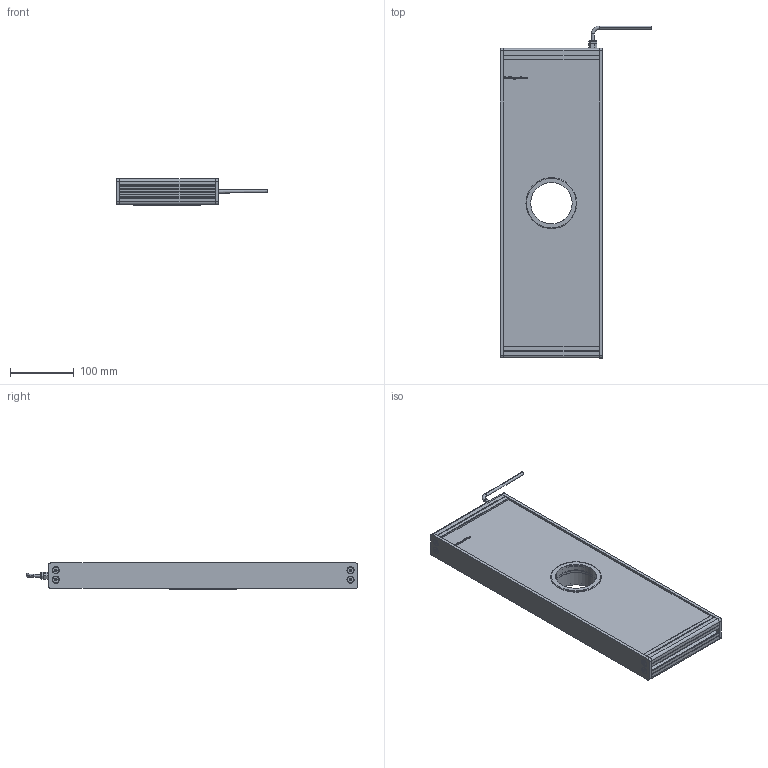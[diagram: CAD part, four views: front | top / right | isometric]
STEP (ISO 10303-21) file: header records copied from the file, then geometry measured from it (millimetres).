
FILE_DESCRIPTION (( 'STEP AP214' ), '1' );
FILE_NAME ('EFFI-FD-150T-450-M12 Ø65.STEP', '2021-07-02T12:16:33', ( '' ), ( '' ), 'SwSTEP 2.0', 'SolidWorks 2021', '' );
FILE_SCHEMA (( 'AUTOMOTIVE_DESIGN' ));
Length unit declared in the file: millimetre
Products named in the file (11): bord fin modif_lg 436.5 mm; 000590; profile modif_lg 99.5 mm; 003776; EFFI-FD-150T-450-M12 Ø65; Assemblage Ø65; 004409; 004408; Pièce2^EFFI-FD-XXXT-YYY-M12 Ø65; cordon_Avec cable
Assembly tree (20 placements, depth 3):
  EFFI-FD-150T-450-M12 Ø65
    profile modif_lg 99.5 mm
    bord fin modif_lg 436.5 mm  x2
    Pièce2^EFFI-FD-XXXT-YYY-M12 Ø65
    profile modif_lg 99.5 mm
    003776  x8
    cordon_Avec cable
    Assemblage Ø65
      004408
      004409
      000590  x3
Bounding box: 237.13 x 521.15 x 41 mm (x, y, z)
Volume: 2608032.4 mm3; surface area: 354505.5 mm2
Topology: 18 solids, 24 shells, 1002 faces, 2513 edges, 1575 vertices
Faces by surface type: plane 392, cylinder 233, bspline 180, cone 154, torus 35, sphere 8
Entity records: 25569 total; most frequent: CARTESIAN_POINT 8641, ORIENTED_EDGE 3310, DIRECTION 3055, EDGE_CURVE 1659, VERTEX_POINT 1072, AXIS2_PLACEMENT_3D 1032, VECTOR 991, LINE 991
